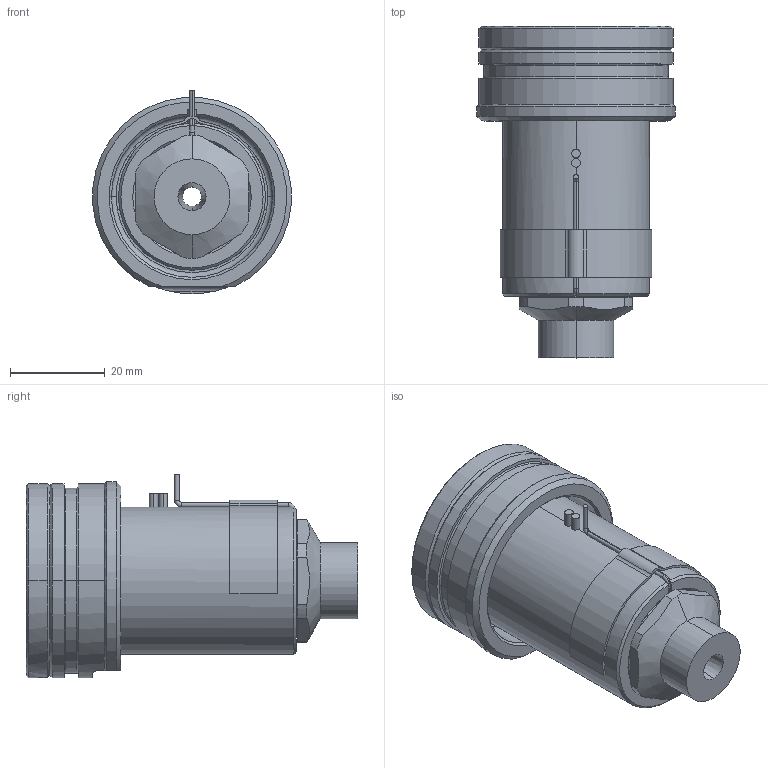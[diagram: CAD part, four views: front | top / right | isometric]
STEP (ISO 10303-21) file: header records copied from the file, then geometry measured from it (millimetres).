
FILE_DESCRIPTION((''),'2;1');
FILE_NAME('EO12_VG-ST_STD_050_SW','2024-02-19T12:49:29',('sundharh'),(''),'CREO PARAMETRIC BY PTC INC, 2023154','CREO PARAMETRIC BY PTC INC, 2023154','');
FILE_SCHEMA(('CONFIG_CONTROL_DESIGN'));
Length unit declared in the file: millimetre
Products named in the file (1): EO12_VG-ST_STD_050_SW
Bounding box: 41.85 x 70 x 43 mm (x, y, z)
Volume: 49128.1 mm3; surface area: 15959.4 mm2
Topology: 2 solids, 3 shells, 182 faces, 463 edges, 284 vertices
Faces by surface type: cylinder 65, plane 46, cone 37, torus 27, bspline 5, sphere 2
Entity records: 6214 total; most frequent: CARTESIAN_POINT 1707, DIRECTION 994, ORIENTED_EDGE 922, EDGE_CURVE 461, AXIS2_PLACEMENT_3D 415, VERTEX_POINT 284, CIRCLE 238, EDGE_LOOP 197
